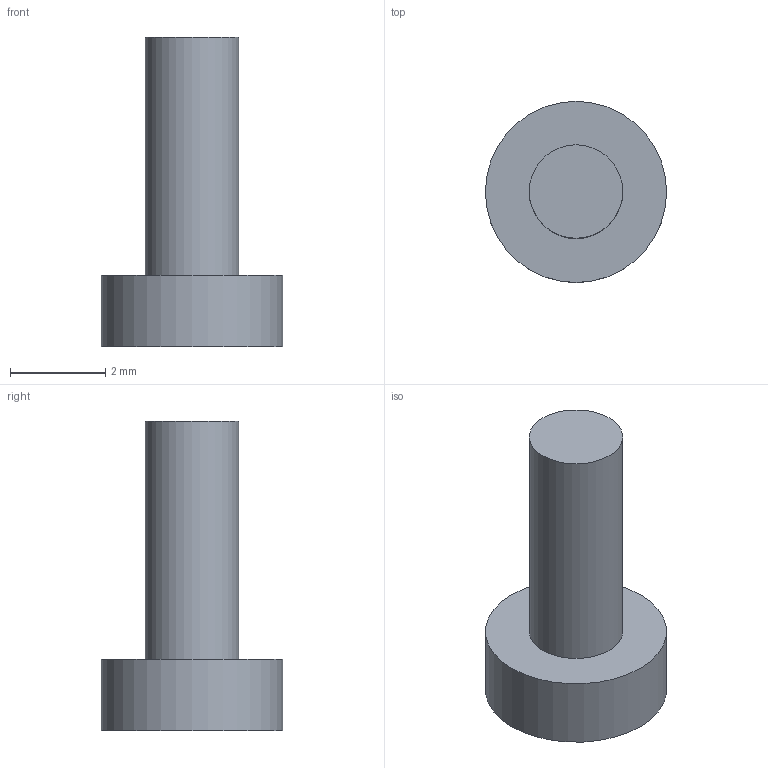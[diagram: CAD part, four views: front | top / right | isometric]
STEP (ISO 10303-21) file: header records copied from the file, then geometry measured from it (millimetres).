
FILE_DESCRIPTION(('Open CASCADE Model'),'2;1');
FILE_NAME('Open CASCADE Shape Model','2026-09-08T13:27:14',('Author'),( 'Open CASCADE'),'Open CASCADE STEP processor 7.7','Open CASCADE 7.7' ,'Unknown');
FILE_SCHEMA(('AUTOMOTIVE_DESIGN { 1 0 10303 214 1 1 1 1 }'));
Length unit declared in the file: millimetre
Products named in the file (1): Open CASCADE STEP translator 7.7 18
Bounding box: 3.8 x 3.8 x 6.5 mm (x, y, z)
Volume: 32.1 mm3; surface area: 71.4 mm2
Topology: 1 solids, 1 shells, 5 faces, 6 edges, 4 vertices
Faces by surface type: plane 3, cylinder 2
Full cylindrical faces by diameter (mm): 1.96 x1, 3.8 x1
Entity records: 192 total; most frequent: DIRECTION 34, CARTESIAN_POINT 28, ORIENTED_EDGE 12, PCURVE 12, DEFINITIONAL_REPRESENTATION 12, AXIS2_PLACEMENT_3D 10, LINE 10, VECTOR 10
